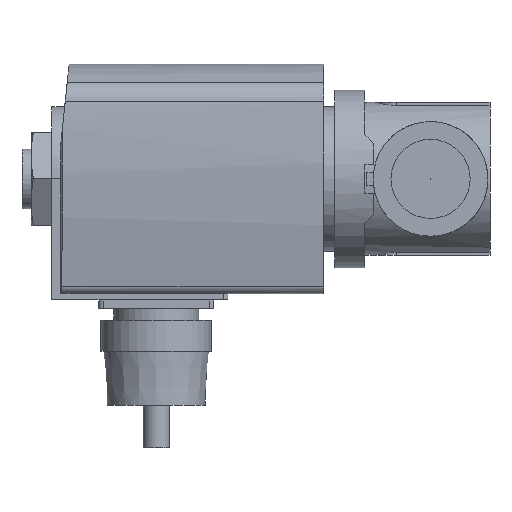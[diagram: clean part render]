
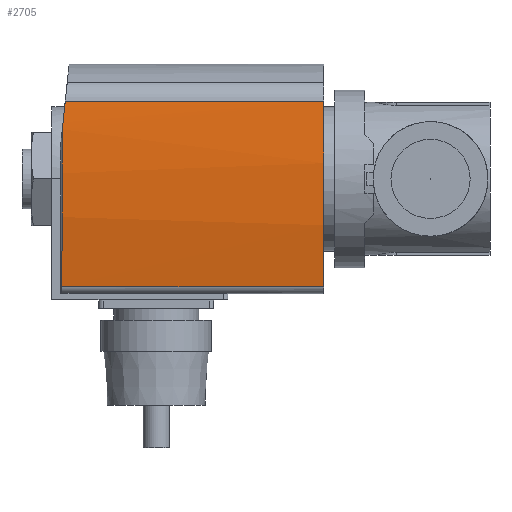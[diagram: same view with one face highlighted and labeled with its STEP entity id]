
A CAD part, left-side view. The second image highlights one B-rep face of the part: STEP entity #2705.
In plain terms, the highlighted cylindrical face has radius 130 mm (diameter 260 mm), a partial arc.
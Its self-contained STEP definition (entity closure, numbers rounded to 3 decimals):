
#62=ELLIPSE('',#2911,130.497,130.);
#63=ELLIPSE('',#2914,130.716,130.);
#236=LINE('',#4018,#355);
#241=LINE('',#4040,#360);
#355=VECTOR('',#3362,1000.);
#360=VECTOR('',#3385,1000.);
#699=ORIENTED_EDGE('',*,*,#1066,.F.);
#700=ORIENTED_EDGE('',*,*,#1058,.T.);
#701=ORIENTED_EDGE('',*,*,#1068,.T.);
#702=ORIENTED_EDGE('',*,*,#1069,.F.);
#703=ORIENTED_EDGE('',*,*,#1070,.F.);
#1058=EDGE_CURVE('',#1276,#1275,#236,.T.);
#1066=EDGE_CURVE('',#1276,#1282,#62,.T.);
#1068=EDGE_CURVE('',#1275,#1283,#1392,.T.);
#1069=EDGE_CURVE('',#1284,#1283,#241,.T.);
#1070=EDGE_CURVE('',#1282,#1284,#63,.T.);
#1275=VERTEX_POINT('',#4017);
#1276=VERTEX_POINT('',#4019);
#1282=VERTEX_POINT('',#4035);
#1283=VERTEX_POINT('',#4039);
#1284=VERTEX_POINT('',#4041);
#1392=CIRCLE('',#2913,130.);
#1529=EDGE_LOOP('',(#699,#700,#701,#702,#703));
#1693=FACE_BOUND('',#1529,.T.);
#1773=CYLINDRICAL_SURFACE('',#2912,130.);
#2705=ADVANCED_FACE('',(#1693),#1773,.T.);
#2911=AXIS2_PLACEMENT_3D('',#4034,#3378,#3379);
#2912=AXIS2_PLACEMENT_3D('',#4037,#3381,#3382);
#2913=AXIS2_PLACEMENT_3D('',#4038,#3383,#3384);
#2914=AXIS2_PLACEMENT_3D('',#4042,#3386,#3387);
#3362=DIRECTION('',(0.,-1.,0.));
#3378=DIRECTION('',(0.,0.996,0.087));
#3379=DIRECTION('',(0.,-0.087,0.996));
#3381=DIRECTION('',(0.,-1.,0.));
#3382=DIRECTION('',(0.,0.,-1.));
#3383=DIRECTION('',(0.,1.,0.));
#3384=DIRECTION('',(1.,0.,0.));
#3385=DIRECTION('',(0.,-1.,0.));
#3386=DIRECTION('',(0.105,0.995,0.));
#3387=DIRECTION('',(0.995,-0.105,0.));
#4017=CARTESIAN_POINT('',(-25.391,-39.4,18.646));
#4018=CARTESIAN_POINT('',(-25.391,22.6,18.646));
#4019=CARTESIAN_POINT('',(-25.391,22.281,18.646));
#4034=CARTESIAN_POINT('',(0.,33.435,-108.85));
#4035=CARTESIAN_POINT('',(11.681,22.108,20.624));
#4037=CARTESIAN_POINT('',(0.,22.6,-108.85));
#4038=CARTESIAN_POINT('',(0.,-39.4,-108.85));
#4039=CARTESIAN_POINT('',(18.286,-39.4,19.857));
#4040=CARTESIAN_POINT('',(18.286,22.6,19.857));
#4041=CARTESIAN_POINT('',(18.286,21.414,19.857));
#4042=CARTESIAN_POINT('',(0.,23.336,-108.85));
